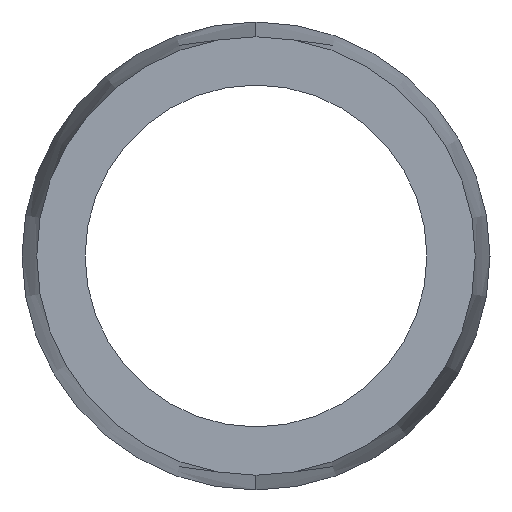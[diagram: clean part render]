
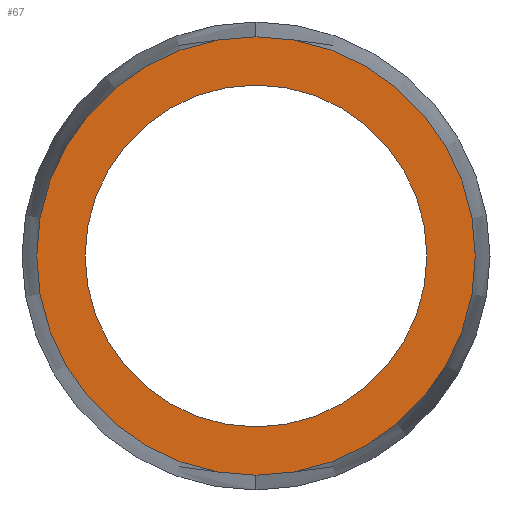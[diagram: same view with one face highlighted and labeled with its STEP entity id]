
A CAD part, left-side view. The second image highlights one B-rep face of the part: STEP entity #67.
In plain terms, the highlighted planar face has unit normal (-1, 0, 0).
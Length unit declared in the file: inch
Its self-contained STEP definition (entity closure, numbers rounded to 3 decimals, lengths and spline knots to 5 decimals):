
#1 = ORIENTED_EDGE ( 'NONE', *, *, #180, .T. ) ;
#13 = DIRECTION ( 'NONE',  ( 0., 0., 1. ) ) ;
#32 = EDGE_LOOP ( 'NONE', ( #331, #157 ) ) ;
#43 = DIRECTION ( 'NONE',  ( -1., 0., 0. ) ) ;
#67 = ADVANCED_FACE ( 'NONE', ( #308, #137 ), #119, .F. ) ;
#73 = VERTEX_POINT ( 'NONE', #228 ) ;
#83 = CARTESIAN_POINT ( 'NONE',  ( 0., 0., 0. ) ) ;
#87 = DIRECTION ( 'NONE',  ( 0., 0., 1. ) ) ;
#109 = ORIENTED_EDGE ( 'NONE', *, *, #239, .T. ) ;
#118 = CARTESIAN_POINT ( 'NONE',  ( 0., 0., -0.2465 ) ) ;
#119 = PLANE ( 'NONE',  #139 ) ;
#123 = EDGE_CURVE ( 'NONE', #263, #73, #234, .T. ) ;
#124 = DIRECTION ( 'NONE',  ( -1., 0., 0. ) ) ;
#137 = FACE_OUTER_BOUND ( 'NONE', #305, .T. ) ;
#139 = AXIS2_PLACEMENT_3D ( 'NONE', #209, #287, #265 ) ;
#147 = CARTESIAN_POINT ( 'NONE',  ( 0., 0., 0. ) ) ;
#157 = ORIENTED_EDGE ( 'NONE', *, *, #123, .F. ) ;
#163 = AXIS2_PLACEMENT_3D ( 'NONE', #198, #43, #250 ) ;
#173 = CIRCLE ( 'NONE', #163, 0.31622 ) ;
#180 = EDGE_CURVE ( 'NONE', #345, #314, #173, .T. ) ;
#185 = CARTESIAN_POINT ( 'NONE',  ( 0., 0., 0.31622 ) ) ;
#194 = CIRCLE ( 'NONE', #327, 0.31622 ) ;
#198 = CARTESIAN_POINT ( 'NONE',  ( 0., 0., 0. ) ) ;
#205 = CARTESIAN_POINT ( 'NONE',  ( 0., 0., -0.31622 ) ) ;
#209 = CARTESIAN_POINT ( 'NONE',  ( 0., 0.2465, 0. ) ) ;
#228 = CARTESIAN_POINT ( 'NONE',  ( 0., 0., 0.2465 ) ) ;
#234 = CIRCLE ( 'NONE', #332, 0.2465 ) ;
#238 = DIRECTION ( 'NONE',  ( -1., 0., 0. ) ) ;
#239 = EDGE_CURVE ( 'NONE', #314, #345, #194, .T. ) ;
#250 = DIRECTION ( 'NONE',  ( 0., 0., 1. ) ) ;
#254 = EDGE_CURVE ( 'NONE', #73, #263, #340, .T. ) ;
#263 = VERTEX_POINT ( 'NONE', #118 ) ;
#265 = DIRECTION ( 'NONE',  ( 0., 0., -1. ) ) ;
#287 = DIRECTION ( 'NONE',  ( 1., 0., 0. ) ) ;
#288 = DIRECTION ( 'NONE',  ( -1., 0., 0. ) ) ;
#305 = EDGE_LOOP ( 'NONE', ( #1, #109 ) ) ;
#308 = FACE_BOUND ( 'NONE', #32, .T. ) ;
#314 = VERTEX_POINT ( 'NONE', #185 ) ;
#327 = AXIS2_PLACEMENT_3D ( 'NONE', #147, #238, #336 ) ;
#331 = ORIENTED_EDGE ( 'NONE', *, *, #254, .F. ) ;
#332 = AXIS2_PLACEMENT_3D ( 'NONE', #338, #124, #13 ) ;
#336 = DIRECTION ( 'NONE',  ( 0., 0., 1. ) ) ;
#338 = CARTESIAN_POINT ( 'NONE',  ( 0., 0., 0. ) ) ;
#340 = CIRCLE ( 'NONE', #352, 0.2465 ) ;
#345 = VERTEX_POINT ( 'NONE', #205 ) ;
#352 = AXIS2_PLACEMENT_3D ( 'NONE', #83, #288, #87 ) ;
